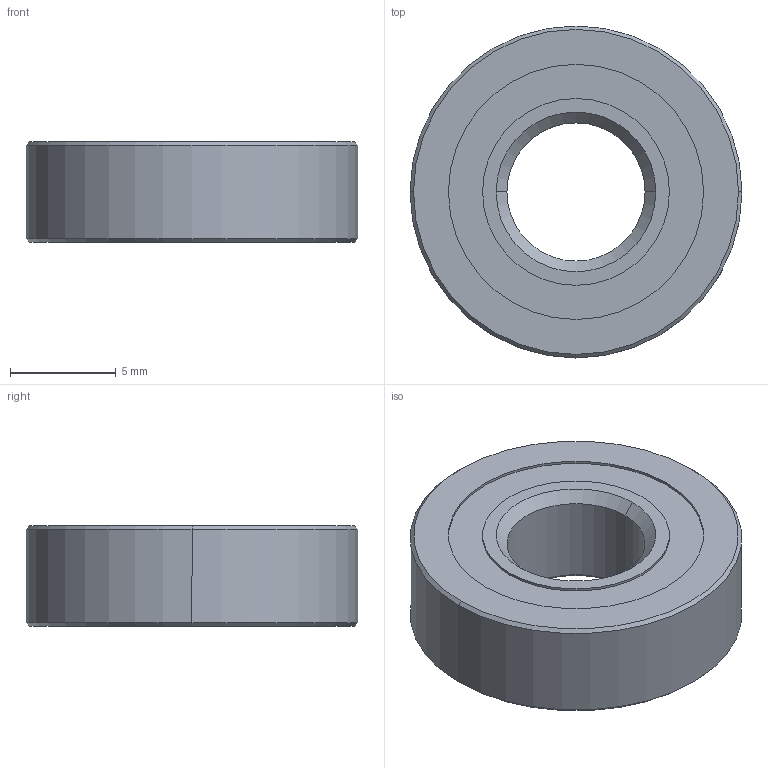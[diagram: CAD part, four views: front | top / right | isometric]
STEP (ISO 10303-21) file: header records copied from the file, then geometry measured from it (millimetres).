
FILE_DESCRIPTION (( 'STEP AP214' ), '1' );
FILE_NAME ('625x25 ball bearing.STEP', '2021-02-04T23:09:08', ( '' ), ( '' ), 'SwSTEP 2.0', 'SolidWorks 2020', '' );
FILE_SCHEMA (( 'AUTOMOTIVE_DESIGN' ));
Length unit declared in the file: inch
Products named in the file (1): 625x25 ball bearing
Bounding box: 15.72 x 15.72 x 4.76 mm (x, y, z)
Volume: 644.4 mm3; surface area: 1449.7 mm2
Topology: 14 solids, 14 shells, 66 faces, 162 edges, 106 vertices
Faces by surface type: cylinder 22, sphere 20, plane 10, cone 10, torus 4
Entity records: 1820 total; most frequent: DIRECTION 326, CARTESIAN_POINT 255, ORIENTED_EDGE 224, AXIS2_PLACEMENT_3D 147, EDGE_CURVE 112, CIRCLE 80, EDGE_LOOP 76, VERTEX_POINT 76
